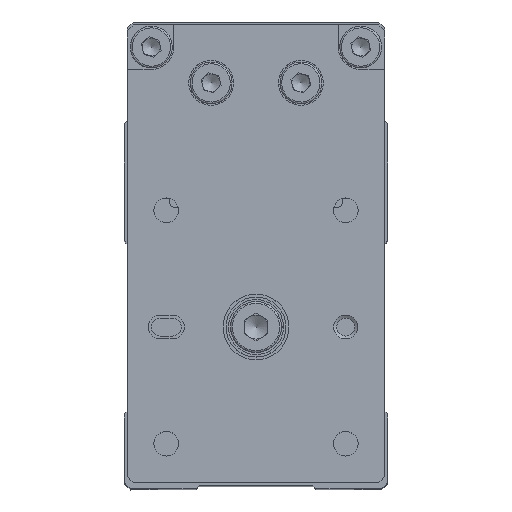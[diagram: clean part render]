
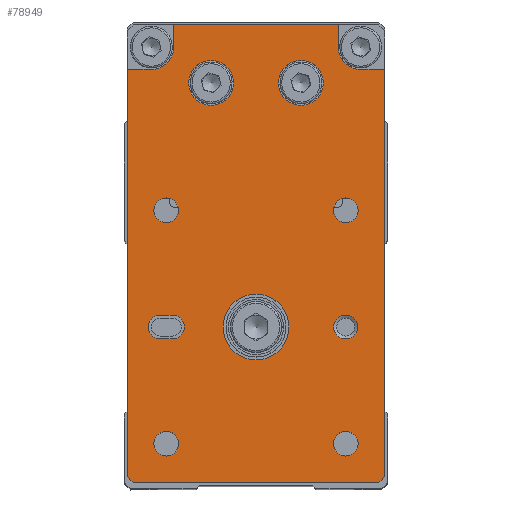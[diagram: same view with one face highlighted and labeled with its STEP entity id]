
A CAD part, top view. The second image highlights one B-rep face of the part: STEP entity #78949.
In plain terms, the highlighted planar face has unit normal (0, 0, 1).
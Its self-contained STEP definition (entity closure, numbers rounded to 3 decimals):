
#78442=CARTESIAN_POINT('',(49.652,-29.,68.));
#78443=VERTEX_POINT('',#78442);
#78444=CARTESIAN_POINT('',(53.402,-25.25,68.));
#78445=VERTEX_POINT('',#78444);
#78446=CARTESIAN_POINT('',(53.402,-29.,68.));
#78447=DIRECTION('',(0.0,0.0,-1.0));
#78448=DIRECTION('',(0.0,1.0,0.0));
#78449=AXIS2_PLACEMENT_3D('',#78446,#78447,#78448);
#78450=CIRCLE('',#78449,3.75);
#78451=EDGE_CURVE('',#78443,#78445,#78450,.T.);
#78484=CARTESIAN_POINT('',(49.652,-33.,68.));
#78485=VERTEX_POINT('',#78484);
#78486=CARTESIAN_POINT('',(49.652,-33.,68.));
#78487=DIRECTION('',(0.0,1.0,0.0));
#78488=VECTOR('',#78487,4.0);
#78489=LINE('',#78486,#78488);
#78490=EDGE_CURVE('',#78485,#78443,#78489,.T.);
#78515=CARTESIAN_POINT('',(57.102,-25.25,68.));
#78516=VERTEX_POINT('',#78515);
#78517=CARTESIAN_POINT('',(53.402,-25.25,68.));
#78518=DIRECTION('',(1.0,0.0,0.0));
#78519=VECTOR('',#78518,3.7);
#78520=LINE('',#78517,#78519);
#78521=EDGE_CURVE('',#78445,#78516,#78520,.T.);
#78590=CARTESIAN_POINT('',(49.652,6.,68.));
#78591=VERTEX_POINT('',#78590);
#78592=CARTESIAN_POINT('',(49.652,10.,68.));
#78593=VERTEX_POINT('',#78592);
#78594=CARTESIAN_POINT('',(49.652,6.,68.));
#78595=DIRECTION('',(0.0,1.0,0.0));
#78596=VECTOR('',#78595,4.);
#78597=LINE('',#78594,#78596);
#78598=EDGE_CURVE('',#78591,#78593,#78597,.T.);
#78630=CARTESIAN_POINT('',(53.402,2.25,68.));
#78631=VERTEX_POINT('',#78630);
#78632=CARTESIAN_POINT('',(53.402,6.,68.));
#78633=DIRECTION('',(0.0,0.0,-1.0));
#78634=DIRECTION('',(1.0,0.0,0.0));
#78635=AXIS2_PLACEMENT_3D('',#78632,#78633,#78634);
#78636=CIRCLE('',#78635,3.75);
#78637=EDGE_CURVE('',#78631,#78591,#78636,.T.);
#78663=CARTESIAN_POINT('',(57.102,2.25,68.));
#78664=VERTEX_POINT('',#78663);
#78665=CARTESIAN_POINT('',(57.102,2.25,68.));
#78666=DIRECTION('',(-1.0,0.0,0.0));
#78667=VECTOR('',#78666,3.7);
#78668=LINE('',#78665,#78667);
#78669=EDGE_CURVE('',#78664,#78631,#78668,.T.);
#78764=CARTESIAN_POINT('',(57.102,-25.25,68.));
#78765=DIRECTION('',(0.0,1.0,0.0));
#78766=VECTOR('',#78765,27.5);
#78767=LINE('',#78764,#78766);
#78768=EDGE_CURVE('',#78516,#78664,#78767,.T.);
#78773=CARTESIAN_POINT('',(18.852,-11.5,68.));
#78774=DIRECTION('',(0.0,0.0,1.0));
#78775=DIRECTION('',(1.0,0.0,0.0));
#78776=AXIS2_PLACEMENT_3D('',#78773,#78774,#78775);
#78777=PLANE('',#78776);
#78778=ORIENTED_EDGE('',*,*,#78490,.T.);
#78779=ORIENTED_EDGE('',*,*,#78451,.T.);
#78780=ORIENTED_EDGE('',*,*,#78521,.T.);
#78781=ORIENTED_EDGE('',*,*,#78768,.T.);
#78782=ORIENTED_EDGE('',*,*,#78669,.T.);
#78783=ORIENTED_EDGE('',*,*,#78637,.T.);
#78784=ORIENTED_EDGE('',*,*,#78598,.T.);
#78785=CARTESIAN_POINT('',(-18.398,10.,68.));
#78786=VERTEX_POINT('',#78785);
#78787=CARTESIAN_POINT('',(49.652,10.,68.));
#78788=DIRECTION('',(-1.0,0.0,0.0));
#78789=VECTOR('',#78788,68.05);
#78790=LINE('',#78787,#78789);
#78791=EDGE_CURVE('',#78593,#78786,#78790,.T.);
#78792=ORIENTED_EDGE('',*,*,#78791,.T.);
#78793=CARTESIAN_POINT('',(-19.398,9.,68.));
#78794=VERTEX_POINT('',#78793);
#78795=CARTESIAN_POINT('',(-18.398,10.,68.));
#78796=DIRECTION('',(-0.707,-0.707,0.0));
#78797=VECTOR('',#78796,1.414);
#78798=LINE('',#78795,#78797);
#78799=EDGE_CURVE('',#78786,#78794,#78798,.T.);
#78800=ORIENTED_EDGE('',*,*,#78799,.T.);
#78801=CARTESIAN_POINT('',(-19.398,-32.,68.));
#78802=VERTEX_POINT('',#78801);
#78803=CARTESIAN_POINT('',(-19.398,9.,68.));
#78804=DIRECTION('',(0.0,-1.0,0.0));
#78805=VECTOR('',#78804,41.);
#78806=LINE('',#78803,#78805);
#78807=EDGE_CURVE('',#78794,#78802,#78806,.T.);
#78808=ORIENTED_EDGE('',*,*,#78807,.T.);
#78809=CARTESIAN_POINT('',(-18.398,-33.,68.));
#78810=VERTEX_POINT('',#78809);
#78811=CARTESIAN_POINT('',(-19.398,-32.,68.));
#78812=DIRECTION('',(0.707,-0.707,0.0));
#78813=VECTOR('',#78812,1.414);
#78814=LINE('',#78811,#78813);
#78815=EDGE_CURVE('',#78802,#78810,#78814,.T.);
#78816=ORIENTED_EDGE('',*,*,#78815,.T.);
#78817=CARTESIAN_POINT('',(-18.398,-33.,68.));
#78818=DIRECTION('',(1.0,0.0,0.0));
#78819=VECTOR('',#78818,68.05);
#78820=LINE('',#78817,#78819);
#78821=EDGE_CURVE('',#78810,#78485,#78820,.T.);
#78822=ORIENTED_EDGE('',*,*,#78821,.T.);
#78823=EDGE_LOOP('',(#78778,#78779,#78780,#78781,#78782,#78783,#78784,#78792,#78800,#78808,#78816,#78822));
#78824=FACE_OUTER_BOUND('',#78823,.T.);
#78825=CARTESIAN_POINT('',(28.169,-26.5,68.));
#78826=VERTEX_POINT('',#78825);
#78827=CARTESIAN_POINT('',(26.102,-26.5,68.));
#78828=DIRECTION('',(0.0,0.0,-1.0));
#78829=DIRECTION('',(-1.0,0.0,0.0));
#78830=AXIS2_PLACEMENT_3D('',#78827,#78828,#78829);
#78831=CIRCLE('',#78830,2.067);
#78832=EDGE_CURVE('',#78826,#78826,#78831,.T.);
#78833=ORIENTED_EDGE('',*,*,#78832,.T.);
#78834=EDGE_LOOP('',(#78833));
#78835=FACE_BOUND('',#78834,.T.);
#78836=CARTESIAN_POINT('',(-10.831,3.5,68.));
#78837=VERTEX_POINT('',#78836);
#78838=CARTESIAN_POINT('',(-12.898,3.5,68.));
#78839=DIRECTION('',(0.0,0.0,-1.0));
#78840=DIRECTION('',(-1.0,0.0,0.0));
#78841=AXIS2_PLACEMENT_3D('',#78838,#78839,#78840);
#78842=CIRCLE('',#78841,2.067);
#78843=EDGE_CURVE('',#78837,#78837,#78842,.T.);
#78844=ORIENTED_EDGE('',*,*,#78843,.T.);
#78845=EDGE_LOOP('',(#78844));
#78846=FACE_BOUND('',#78845,.T.);
#78847=CARTESIAN_POINT('',(28.169,3.5,68.));
#78848=VERTEX_POINT('',#78847);
#78849=CARTESIAN_POINT('',(26.102,3.5,68.));
#78850=DIRECTION('',(0.0,0.0,-1.0));
#78851=DIRECTION('',(-1.0,0.0,0.0));
#78852=AXIS2_PLACEMENT_3D('',#78849,#78850,#78851);
#78853=CIRCLE('',#78852,2.067);
#78854=EDGE_CURVE('',#78848,#78848,#78853,.T.);
#78855=ORIENTED_EDGE('',*,*,#78854,.T.);
#78856=EDGE_LOOP('',(#78855));
#78857=FACE_BOUND('',#78856,.T.);
#78858=CARTESIAN_POINT('',(-10.831,-26.5,68.));
#78859=VERTEX_POINT('',#78858);
#78860=CARTESIAN_POINT('',(-12.898,-26.5,68.));
#78861=DIRECTION('',(0.0,0.0,-1.0));
#78862=DIRECTION('',(-1.0,0.0,0.0));
#78863=AXIS2_PLACEMENT_3D('',#78860,#78861,#78862);
#78864=CIRCLE('',#78863,2.067);
#78865=EDGE_CURVE('',#78859,#78859,#78864,.T.);
#78866=ORIENTED_EDGE('',*,*,#78865,.T.);
#78867=EDGE_LOOP('',(#78866));
#78868=FACE_BOUND('',#78867,.T.);
#78869=CARTESIAN_POINT('',(12.102,-11.5,68.));
#78870=VERTEX_POINT('',#78869);
#78871=CARTESIAN_POINT('',(6.602,-11.5,68.));
#78872=DIRECTION('',(0.0,0.0,-1.0));
#78873=DIRECTION('',(-1.0,0.0,0.0));
#78874=AXIS2_PLACEMENT_3D('',#78871,#78872,#78873);
#78875=CIRCLE('',#78874,5.5);
#78876=EDGE_CURVE('',#78870,#78870,#78875,.T.);
#78877=ORIENTED_EDGE('',*,*,#78876,.T.);
#78878=EDGE_LOOP('',(#78877));
#78879=FACE_BOUND('',#78878,.T.);
#78880=CARTESIAN_POINT('',(8.602,2.5,68.));
#78881=VERTEX_POINT('',#78880);
#78882=CARTESIAN_POINT('',(4.602,2.5,68.));
#78883=VERTEX_POINT('',#78882);
#78884=CARTESIAN_POINT('',(6.602,2.5,68.));
#78885=DIRECTION('',(0.0,0.0,-1.0));
#78886=DIRECTION('',(1.0,0.0,0.0));
#78887=AXIS2_PLACEMENT_3D('',#78884,#78885,#78886);
#78888=CIRCLE('',#78887,2.);
#78889=EDGE_CURVE('',#78881,#78883,#78888,.T.);
#78890=ORIENTED_EDGE('',*,*,#78889,.T.);
#78891=CARTESIAN_POINT('',(4.602,4.5,68.));
#78892=VERTEX_POINT('',#78891);
#78893=CARTESIAN_POINT('',(4.602,2.5,68.));
#78894=DIRECTION('',(0.0,1.0,0.0));
#78895=VECTOR('',#78894,2.);
#78896=LINE('',#78893,#78895);
#78897=EDGE_CURVE('',#78883,#78892,#78896,.T.);
#78898=ORIENTED_EDGE('',*,*,#78897,.T.);
#78899=CARTESIAN_POINT('',(8.602,4.5,68.));
#78900=VERTEX_POINT('',#78899);
#78901=CARTESIAN_POINT('',(6.602,4.5,68.));
#78902=DIRECTION('',(0.0,0.0,-1.0));
#78903=DIRECTION('',(-1.0,0.0,0.0));
#78904=AXIS2_PLACEMENT_3D('',#78901,#78902,#78903);
#78905=CIRCLE('',#78904,2.0);
#78906=EDGE_CURVE('',#78892,#78900,#78905,.T.);
#78907=ORIENTED_EDGE('',*,*,#78906,.T.);
#78908=CARTESIAN_POINT('',(8.602,4.5,68.));
#78909=DIRECTION('',(0.0,-1.0,0.0));
#78910=VECTOR('',#78909,2.);
#78911=LINE('',#78908,#78910);
#78912=EDGE_CURVE('',#78900,#78881,#78911,.T.);
#78913=ORIENTED_EDGE('',*,*,#78912,.T.);
#78914=EDGE_LOOP('',(#78890,#78898,#78907,#78913));
#78915=FACE_BOUND('',#78914,.T.);
#78916=CARTESIAN_POINT('',(8.602,-26.5,68.));
#78917=VERTEX_POINT('',#78916);
#78918=CARTESIAN_POINT('',(6.602,-26.5,68.));
#78919=DIRECTION('',(0.0,0.0,-1.0));
#78920=DIRECTION('',(1.0,0.0,0.0));
#78921=AXIS2_PLACEMENT_3D('',#78918,#78919,#78920);
#78922=CIRCLE('',#78921,2.0);
#78923=EDGE_CURVE('',#78917,#78917,#78922,.T.);
#78924=ORIENTED_EDGE('',*,*,#78923,.T.);
#78925=EDGE_LOOP('',(#78924));
#78926=FACE_BOUND('',#78925,.T.);
#78927=CARTESIAN_POINT('',(51.152,-19.,68.));
#78928=VERTEX_POINT('',#78927);
#78929=CARTESIAN_POINT('',(47.402,-19.,68.));
#78930=DIRECTION('',(0.0,0.0,-1.0));
#78931=DIRECTION('',(-1.0,0.0,0.0));
#78932=AXIS2_PLACEMENT_3D('',#78929,#78930,#78931);
#78933=CIRCLE('',#78932,3.75);
#78934=EDGE_CURVE('',#78928,#78928,#78933,.T.);
#78935=ORIENTED_EDGE('',*,*,#78934,.T.);
#78936=EDGE_LOOP('',(#78935));
#78937=FACE_BOUND('',#78936,.T.);
#78938=CARTESIAN_POINT('',(51.152,-4.,68.));
#78939=VERTEX_POINT('',#78938);
#78940=CARTESIAN_POINT('',(47.402,-4.,68.));
#78941=DIRECTION('',(0.0,0.0,-1.0));
#78942=DIRECTION('',(-1.0,0.0,0.0));
#78943=AXIS2_PLACEMENT_3D('',#78940,#78941,#78942);
#78944=CIRCLE('',#78943,3.75);
#78945=EDGE_CURVE('',#78939,#78939,#78944,.T.);
#78946=ORIENTED_EDGE('',*,*,#78945,.T.);
#78947=EDGE_LOOP('',(#78946));
#78948=FACE_BOUND('',#78947,.T.);
#78949=ADVANCED_FACE('',(#78824,#78835,#78846,#78857,#78868,#78879,#78915,#78926,#78937,#78948),#78777,.T.);
